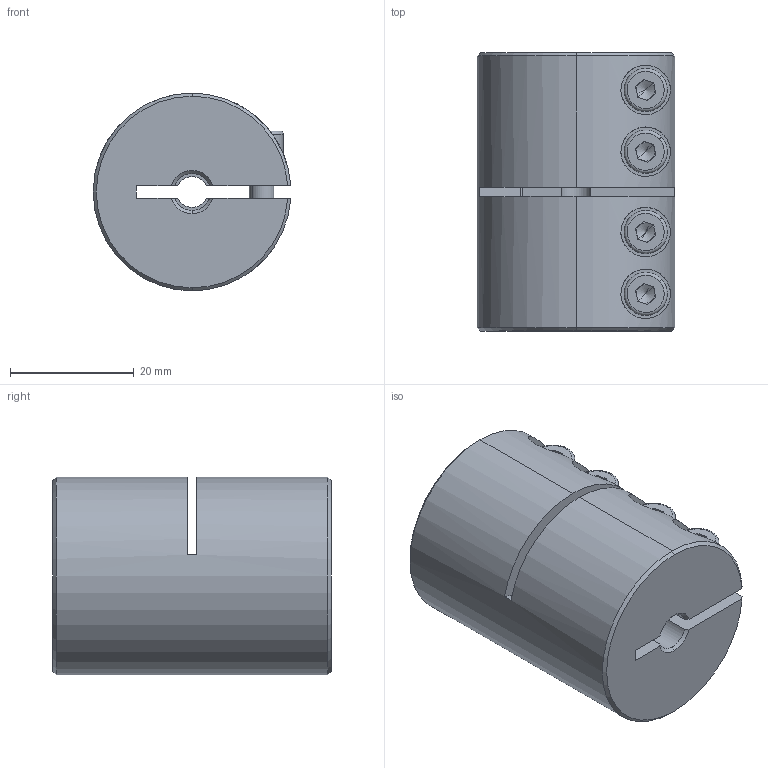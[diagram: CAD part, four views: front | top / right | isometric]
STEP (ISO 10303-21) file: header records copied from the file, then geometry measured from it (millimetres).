
FILE_DESCRIPTION (( 'STEP AP214' ), '1' );
FILE_NAME ('LL-B-D32L45-5-6½¨Ä£.STEP', '2022-07-21T06:21:22', ( '' ), ( '' ), 'SwSTEP 2.0', 'SolidWorks 2022', '' );
FILE_SCHEMA (( 'AUTOMOTIVE_DESIGN' ));
Length unit declared in the file: millimetre
Products named in the file (1): LL-B-D32L45-5-6膘耀
Bounding box: 31.97 x 45 x 32 mm (x, y, z)
Volume: 32096.9 mm3; surface area: 10686.4 mm2
Topology: 1 solids, 1 shells, 193 faces, 492 edges, 309 vertices
Faces by surface type: plane 88, cylinder 77, cone 20, torus 8
Entity records: 6357 total; most frequent: CARTESIAN_POINT 1583, DIRECTION 1037, ORIENTED_EDGE 968, EDGE_CURVE 484, AXIS2_PLACEMENT_3D 403, VERTEX_POINT 309, VECTOR 231, LINE 231
